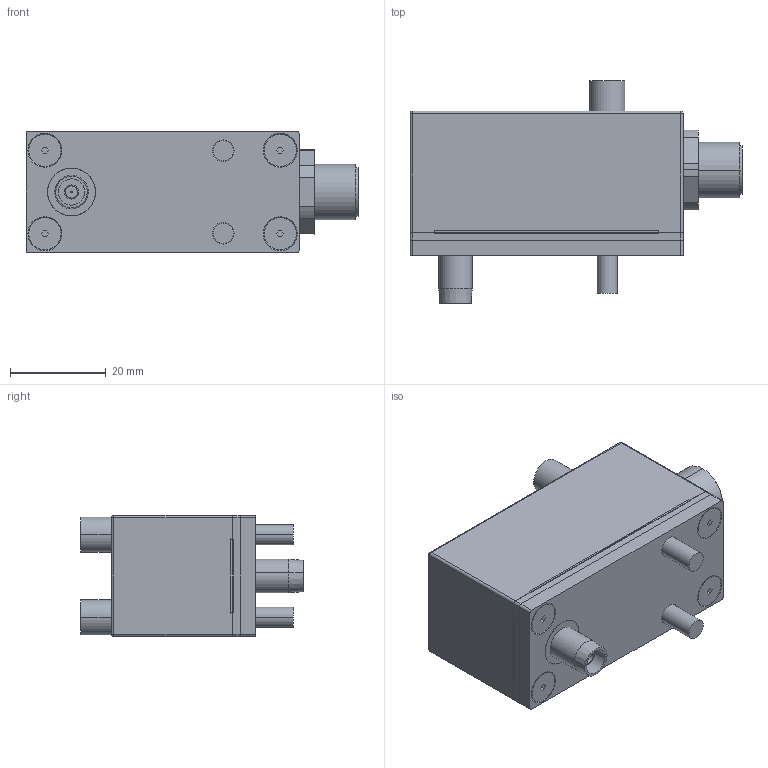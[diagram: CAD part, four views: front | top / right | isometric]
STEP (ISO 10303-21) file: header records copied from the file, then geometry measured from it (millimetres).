
FILE_DESCRIPTION (( 'STEP AP203' ), '1' );
FILE_NAME ('LP-LX1-M.STEP', '2014-08-15T13:12:19', ( '' ), ( '' ), 'SwSTEP 2.0', 'SolidWorks 2013', '' );
FILE_SCHEMA (( 'CONFIG_CONTROL_DESIGN' ));
Length unit declared in the file: inch
Products named in the file (9): LP-LX1-M Gasket; LP-LX1-M; LP-LX1-M Case; LP-LX1-M Aluminum Cover; LP-LX1-M Cover; Fischer SF 102A014; LP-LX1-M Fischer Connector; screw; screw 2
Assembly tree (12 placements, depth 2):
  LP-LX1-M
    LP-LX1-M Case
    LP-LX1-M Aluminum Cover
    LP-LX1-M Cover
    Fischer SF 102A014
    LP-LX1-M Fischer Connector
    screw  x2
    screw 2  x4
    LP-LX1-M Gasket
Bounding box: 69.47 x 46.53 x 25.4 mm (x, y, z)
Volume: 28055.8 mm3; surface area: 22947.1 mm2
Topology: 12 solids, 12 shells, 1095 faces, 2863 edges, 1887 vertices
Faces by surface type: plane 566, bspline 339, cylinder 150, cone 26, sphere 14
Entity records: 47932 total; most frequent: CARTESIAN_POINT 23245, ORIENTED_EDGE 5422, DIRECTION 3763, EDGE_CURVE 2711, VERTEX_POINT 1797, VECTOR 1721, LINE 1721, EDGE_LOOP 1192
